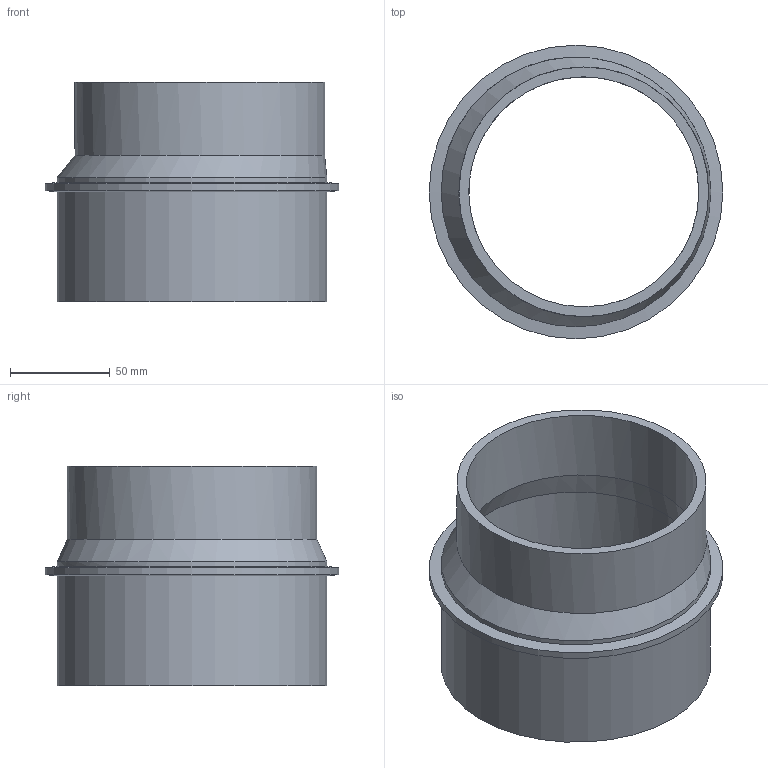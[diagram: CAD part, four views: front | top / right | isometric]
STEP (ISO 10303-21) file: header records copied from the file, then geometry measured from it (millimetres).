
FILE_DESCRIPTION(/* description */ (''),/* implementation_level */ '2;1');
FILE_NAME(/* name */ 'Z:\Geberit\Export\NewStep\Reduktion_Ipart\stp\312125.stp',/* time_stamp */ '2014-04-03T18:14:36+02:00',/* author */ ('nelson'),/* organization */ (''),/* preprocessor_version */ 'ST-DEVELOPER v15.2',/* originating_system */ 'Autodesk Inventor 2014',/* authorisation */ '');
FILE_SCHEMA (('AUTOMOTIVE_DESIGN { 1 0 10303 214 3 1 1 }'));
Length unit declared in the file: millimetre
Products named in the file (1): 312125
Bounding box: 147 x 147 x 110 mm (x, y, z)
Volume: 253569.5 mm3; surface area: 96902.6 mm2
Topology: 1 solids, 1 shells, 12 faces, 28 edges, 18 vertices
Faces by surface type: cylinder 6, cone 2, bspline 2, plane 2
Full cylindrical faces by diameter (mm): 115.2 x1, 123 x1, 125 x1, 135 x2, 147 x1
Entity records: 355 total; most frequent: CARTESIAN_POINT 83, DIRECTION 54, ORIENTED_EDGE 36, AXIS2_PLACEMENT_3D 27, EDGE_LOOP 22, EDGE_CURVE 18, CIRCLE 16, VERTEX_POINT 16
